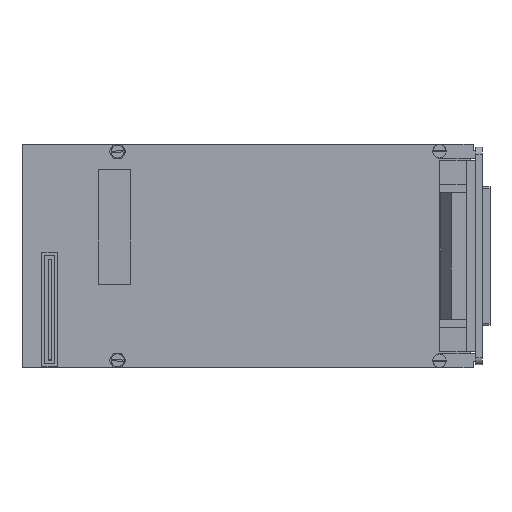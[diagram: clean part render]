
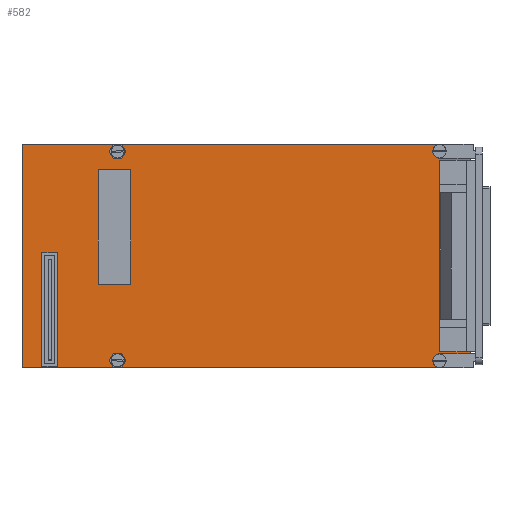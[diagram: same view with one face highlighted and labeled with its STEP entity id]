
A CAD part, top view. The second image highlights one B-rep face of the part: STEP entity #582.
In plain terms, the highlighted planar face has unit normal (0, 0, 1).
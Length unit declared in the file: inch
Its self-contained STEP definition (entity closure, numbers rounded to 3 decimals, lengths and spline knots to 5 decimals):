
#16 = LINE ( 'NONE', #8636, #1572 ) ;
#429 = PLANE ( 'NONE',  #1792 ) ;
#516 = VECTOR ( 'NONE', #2899, 39.37008 ) ;
#582 = ADVANCED_FACE ( 'NONE', ( #5899 ), #429, .T. ) ;
#1066 = LINE ( 'NONE', #6350, #8164 ) ;
#1102 = DIRECTION ( 'NONE',  ( 0., -1., 0. ) ) ;
#1231 = CARTESIAN_POINT ( 'NONE',  ( -2.935, -1.46, 0.0675 ) ) ;
#1419 = ORIENTED_EDGE ( 'NONE', *, *, #3621, .T. ) ;
#1572 = VECTOR ( 'NONE', #2112, 39.37008 ) ;
#1751 = CARTESIAN_POINT ( 'NONE',  ( 2.935, -1.46, 0.0675 ) ) ;
#1792 = AXIS2_PLACEMENT_3D ( 'NONE', #7563, #4690, #3864 ) ;
#2112 = DIRECTION ( 'NONE',  ( 1., 0., 0. ) ) ;
#2311 = CARTESIAN_POINT ( 'NONE',  ( -2.935, 1.46, 0.0675 ) ) ;
#2619 = DIRECTION ( 'NONE',  ( 0., 1., 0. ) ) ;
#2899 = DIRECTION ( 'NONE',  ( -1., 0., 0. ) ) ;
#3505 = EDGE_CURVE ( 'NONE', #8114, #6084, #9208, .T. ) ;
#3565 = CARTESIAN_POINT ( 'NONE',  ( -2.935, 1.46, 0.0675 ) ) ;
#3621 = EDGE_CURVE ( 'NONE', #8867, #8114, #16, .T. ) ;
#3864 = DIRECTION ( 'NONE',  ( 1., 0., 0. ) ) ;
#4209 = ORIENTED_EDGE ( 'NONE', *, *, #3505, .T. ) ;
#4690 = DIRECTION ( 'NONE',  ( 0., 0., 1. ) ) ;
#5744 = ORIENTED_EDGE ( 'NONE', *, *, #9026, .T. ) ;
#5899 = FACE_OUTER_BOUND ( 'NONE', #6050, .T. ) ;
#6002 = EDGE_CURVE ( 'NONE', #6137, #8867, #1066, .T. ) ;
#6050 = EDGE_LOOP ( 'NONE', ( #4209, #5744, #8856, #1419 ) ) ;
#6084 = VERTEX_POINT ( 'NONE', #7195 ) ;
#6137 = VERTEX_POINT ( 'NONE', #2311 ) ;
#6350 = CARTESIAN_POINT ( 'NONE',  ( -2.935, 1.46, 0.0675 ) ) ;
#6431 = LINE ( 'NONE', #3565, #516 ) ;
#6569 = VECTOR ( 'NONE', #2619, 39.37008 ) ;
#7195 = CARTESIAN_POINT ( 'NONE',  ( 2.935, 1.46, 0.0675 ) ) ;
#7563 = CARTESIAN_POINT ( 'NONE',  ( 0., 0., 0.0675 ) ) ;
#7726 = CARTESIAN_POINT ( 'NONE',  ( 2.935, 1.46, 0.0675 ) ) ;
#8114 = VERTEX_POINT ( 'NONE', #1751 ) ;
#8164 = VECTOR ( 'NONE', #1102, 39.37008 ) ;
#8636 = CARTESIAN_POINT ( 'NONE',  ( -2.935, -1.46, 0.0675 ) ) ;
#8856 = ORIENTED_EDGE ( 'NONE', *, *, #6002, .T. ) ;
#8867 = VERTEX_POINT ( 'NONE', #1231 ) ;
#9026 = EDGE_CURVE ( 'NONE', #6084, #6137, #6431, .T. ) ;
#9208 = LINE ( 'NONE', #7726, #6569 ) ;
